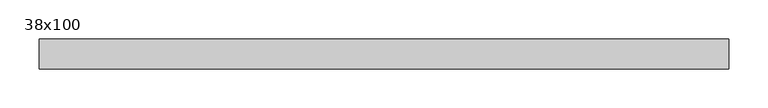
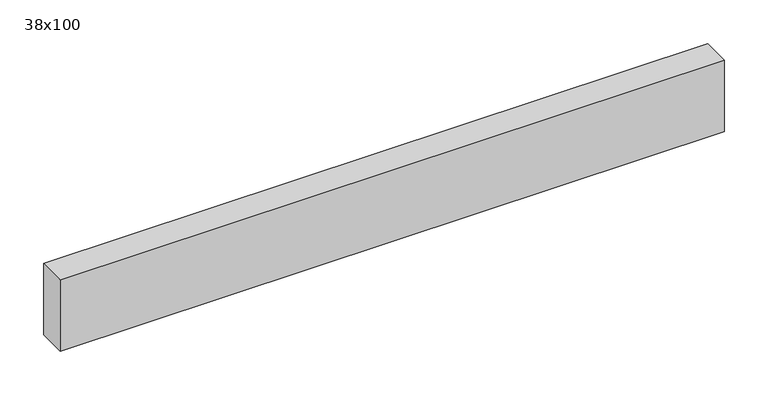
"""IFC4 building model written with IfcOpenShell, lengths in millimetres: beam geometry, Poutre - Bois de construction de dimensions courantes : 38x100."""

from ifc_helpers import new_model, si_unit, frame, origin, place, context, project, spatial, polyline, outline, extrude, source, transform, mapped, element, save


def beam_38x100_b9e945cf(model_context):
    return source(origin(), model_context, "Body", "SweptSolid", [
        extrude(outline(polyline([(567.5, 19.05), (567.5, -19.05), (-310.5, -19.05), (-310.5, 19.05), (567.5, 19.05)])), frame((0.0, 0.0, -50.0), z_axis=(0.0, 0.0, 1.0), x_axis=(1.0, 0.0, 0.0)), (0.0, 0.0, 1.0), 100.0),
    ])


if __name__ == "__main__":
    model = new_model("IFC4")
    model_context = context("Model", 3, world=origin())
    ifc_project = project(units=[si_unit("LENGTHUNIT", "METRE", prefix="MILLI")], contexts=[model_context])
    site = spatial("IfcSite", under=ifc_project)
    building = spatial("IfcBuilding", under=site)
    placement = place(None, origin())
    beam_38x100_shape = beam_38x100_b9e945cf(model_context)
    element("IfcBeam", 1, ObjectType="Poutre - Bois de construction de dimensions courantes : 38x100", at=placement, inside=building, context=model_context, shape_type="MappedRepresentation", body=[
        mapped(beam_38x100_shape, transform((0.0, 0.0, 0.0), x_axis=(1.0, 0.0, 0.0), y_axis=(0.0, 1.0, 0.0), z_axis=(0.0, 0.0, 1.0))),
    ])
    save(model, "model.ifc")
